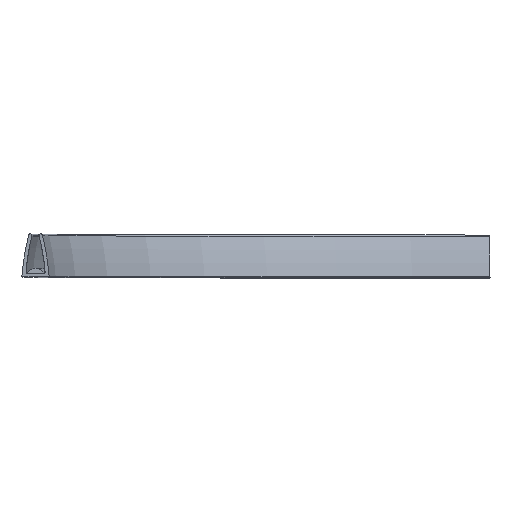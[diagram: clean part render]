
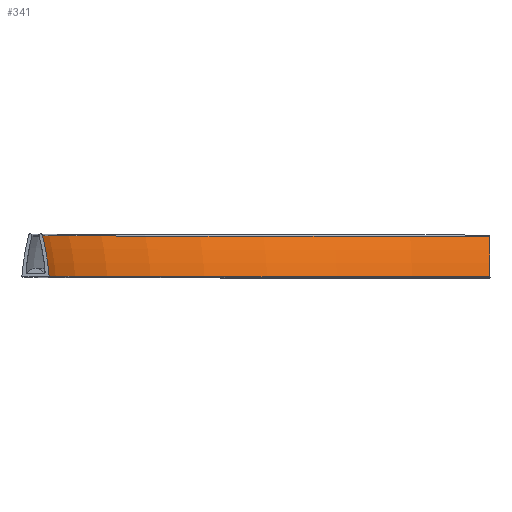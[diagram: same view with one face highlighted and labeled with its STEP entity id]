
A CAD part, top view. The second image highlights one B-rep face of the part: STEP entity #341.
In plain terms, the highlighted toroidal (fillet/blend) face has major radius 183.364 mm and minor radius 62 mm.
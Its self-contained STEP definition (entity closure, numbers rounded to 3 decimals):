
#12 = CARTESIAN_POINT ( 'NONE',  ( 111.211, -5.479, -232.844 ) ) ;
#31 = AXIS2_PLACEMENT_3D ( 'NONE', #984, #879, #797 ) ;
#58 = ORIENTED_EDGE ( 'NONE', *, *, #558, .F. ) ;
#98 = DIRECTION ( 'NONE',  ( 0., 0., 1. ) ) ;
#108 = VERTEX_POINT ( 'NONE', #268 ) ;
#130 = EDGE_LOOP ( 'NONE', ( #887, #810, #683, #58 ) ) ;
#136 = EDGE_CURVE ( 'NONE', #655, #108, #493, .T. ) ;
#158 = EDGE_CURVE ( 'NONE', #1087, #655, #573, .T. ) ;
#230 = AXIS2_PLACEMENT_3D ( 'NONE', #1020, #245, #926 ) ;
#245 = DIRECTION ( 'NONE',  ( 0., -1., 0. ) ) ;
#246 = AXIS2_PLACEMENT_3D ( 'NONE', #748, #306, #1001 ) ;
#264 = TOROIDAL_SURFACE ( 'NONE', #246, 183.364, 62. ) ;
#268 = CARTESIAN_POINT ( 'NONE',  ( 115.86, -0.71, -171.203 ) ) ;
#271 = CARTESIAN_POINT ( 'NONE',  ( 115.733, 9.643, -172.887 ) ) ;
#279 = CARTESIAN_POINT ( 'NONE',  ( 1.764, 9.643, -50. ) ) ;
#300 = CARTESIAN_POINT ( 'NONE',  ( 3.453, -0.71, -50. ) ) ;
#306 = DIRECTION ( 'NONE',  ( 0., -1., 0. ) ) ;
#313 = VERTEX_POINT ( 'NONE', #300 ) ;
#341 = ADVANCED_FACE ( 'NONE', ( #398 ), #264, .T. ) ;
#398 = FACE_OUTER_BOUND ( 'NONE', #130, .T. ) ;
#447 = EDGE_CURVE ( 'NONE', #313, #108, #1058, .T. ) ;
#450 = CARTESIAN_POINT ( 'NONE',  ( -58.364, -5.479, -50. ) ) ;
#493 = CIRCLE ( 'NONE', #788, 62. ) ;
#528 = DIRECTION ( 'NONE',  ( 0.997, 0., -0.075 ) ) ;
#558 = EDGE_CURVE ( 'NONE', #313, #1087, #663, .T. ) ;
#573 = CIRCLE ( 'NONE', #31, 123.236 ) ;
#613 = DIRECTION ( 'NONE',  ( -0.075, 0., -0.997 ) ) ;
#631 = DIRECTION ( 'NONE',  ( 1., 0., 0. ) ) ;
#655 = VERTEX_POINT ( 'NONE', #271 ) ;
#663 = CIRCLE ( 'NONE', #1113, 62. ) ;
#683 = ORIENTED_EDGE ( 'NONE', *, *, #158, .F. ) ;
#748 = CARTESIAN_POINT ( 'NONE',  ( 125., -5.479, -50. ) ) ;
#788 = AXIS2_PLACEMENT_3D ( 'NONE', #12, #528, #613 ) ;
#797 = DIRECTION ( 'NONE',  ( -1., 0., 0. ) ) ;
#810 = ORIENTED_EDGE ( 'NONE', *, *, #136, .F. ) ;
#879 = DIRECTION ( 'NONE',  ( 0., -1., 0. ) ) ;
#887 = ORIENTED_EDGE ( 'NONE', *, *, #447, .T. ) ;
#926 = DIRECTION ( 'NONE',  ( -1., 0., 0. ) ) ;
#984 = CARTESIAN_POINT ( 'NONE',  ( 125., 9.643, -50. ) ) ;
#1001 = DIRECTION ( 'NONE',  ( 0., 0., -1. ) ) ;
#1020 = CARTESIAN_POINT ( 'NONE',  ( 125., -0.71, -50. ) ) ;
#1058 = CIRCLE ( 'NONE', #230, 121.547 ) ;
#1087 = VERTEX_POINT ( 'NONE', #279 ) ;
#1113 = AXIS2_PLACEMENT_3D ( 'NONE', #450, #98, #631 ) ;
